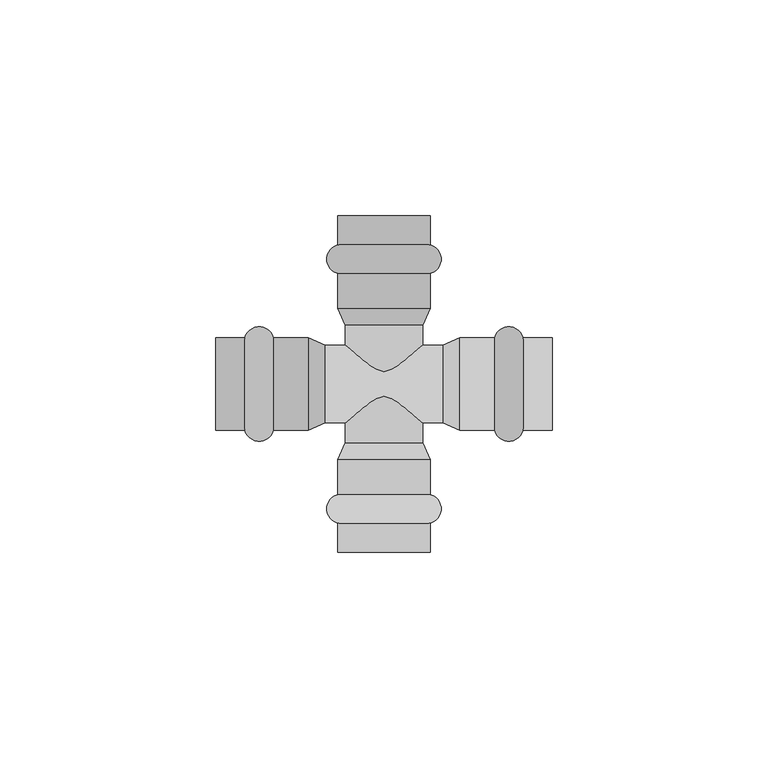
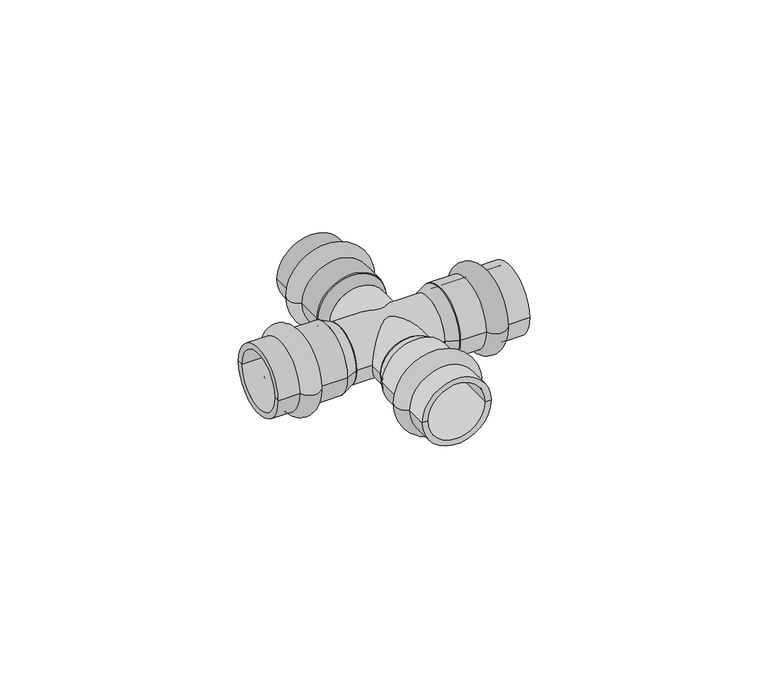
"""IFC4 building model written with IfcOpenShell, lengths in millimetres: pipe fitting geometry, VALTEC_VTi.941.I_Крестовина нержавеющая сталь : VTi.941.I."""

from ifc_helpers import new_model, si_unit, point, frame, origin, origin_2d, place, context, project, spatial, polyline, circle_curve, ellipse_curve, trimmed, segment, composite_curve, outline, extrude, source, transform, mapped, element, save
from ifc_brep_helpers import plane_surface, cylinder_surface, revolved_surface, advanced_brep


def pipe_fitting_bc7cccfe(model_context):
    return source(origin(), model_context, "Body", "SolidModel", [
        advanced_brep(
        [(10.75, -32.2287193, 0.0), (-10.75, -32.2287193, 0.0), (-10.75, -25.6712807, 0.0), (10.75, -25.6712807, 0.0), (10.75, -39.0, 0.0), (-10.75, -39.0, 0.0), (9.0, -39.0, 0.0), (-9.0, -39.0, 0.0), (9.0, -17.55, 0.0), (-9.0, -17.55, 0.0), (10.75, -17.55, 0.0), (-10.75, -17.55, 0.0)],
        [
            (0, 1, circle_curve(frame((0.0, -32.2287193, 0.0), z_axis=(0.0, 1.0, 0.0), x_axis=(-1.0, 0.0, 0.0)), 10.75)),
            (1, 2, circle_curve(frame((-9.85, -28.95, 0.0), z_axis=(0.0, 0.0, -1.0), x_axis=(0.0, 1.0, 0.0)), 3.4)),
            (2, 3, circle_curve(frame((0.0, -25.6712807, 0.0), z_axis=(0.0, -1.0, 0.0), x_axis=(-1.0, 0.0, 0.0)), 10.75)),
            (3, 0, circle_curve(frame((9.85, -28.95, 0.0), z_axis=(0.0, 0.0, -1.0), x_axis=(0.0, 1.0, 0.0)), 3.4)),
            (1, 0, circle_curve(frame((0.0, -32.2287193, 0.0), z_axis=(0.0, 1.0, 0.0), x_axis=(-1.0, 0.0, 0.0)), 10.75)),
            (3, 2, circle_curve(frame((0.0, -25.6712807, 0.0), z_axis=(0.0, -1.0, 0.0), x_axis=(-1.0, 0.0, 0.0)), 10.75)),
            (4, 5, circle_curve(frame((0.0, -39.0, 0.0), z_axis=(0.0, 1.0, 0.0), x_axis=(-1.0, 0.0, 0.0)), 10.75)),
            (5, 1),
            (0, 4),
            (5, 4, circle_curve(frame((0.0, -39.0, 0.0), z_axis=(0.0, 1.0, 0.0), x_axis=(-1.0, 0.0, 0.0)), 10.75)),
            (6, 7, circle_curve(frame((0.0, -39.0, 0.0), z_axis=(0.0, 1.0, 0.0), x_axis=(-1.0, 0.0, 0.0)), 9.0)),
            (7, 5),
            (4, 6),
            (7, 6, circle_curve(frame((0.0, -39.0, 0.0), z_axis=(0.0, 1.0, 0.0), x_axis=(-1.0, 0.0, 0.0)), 9.0)),
            (8, 9, circle_curve(frame((0.0, -17.55, 0.0), z_axis=(0.0, 1.0, 0.0), x_axis=(-1.0, 0.0, 0.0)), 9.0)),
            (9, 7),
            (6, 8),
            (9, 8, circle_curve(frame((0.0, -17.55, 0.0), z_axis=(0.0, 1.0, 0.0), x_axis=(-1.0, 0.0, 0.0)), 9.0)),
            (10, 11, circle_curve(frame((0.0, -17.55, 0.0), z_axis=(0.0, 1.0, 0.0), x_axis=(-1.0, 0.0, 0.0)), 10.75)),
            (11, 9),
            (8, 10),
            (11, 10, circle_curve(frame((0.0, -17.55, 0.0), z_axis=(0.0, 1.0, 0.0), x_axis=(-1.0, 0.0, 0.0)), 10.75)),
            (2, 11),
            (10, 3),
        ],
        [
            revolved_surface(trimmed(ellipse_curve(frame((-9.85, -28.95, 0.0), z_axis=(0.0, 0.0, 1.0), x_axis=(0.0, 1.0, 0.0)), 3.4, 3.4), [point((-10.75, -25.6712807, 0.0))], [point((-10.75, -32.2287193, 0.0))], True, "CARTESIAN"), (0.0, -42.5364426, 0.0), (0.0, -1.0, 0.0)),
            cylinder_surface(frame((0.0, -42.5364426, 0.0), z_axis=(0.0, -1.0, 0.0), x_axis=(-1.0, 0.0, 0.0)), 10.75),
            plane_surface(frame((0.0, -39.0, 0.0), z_axis=(0.0, -1.0, 0.0), x_axis=(-1.0, 0.0, 0.0))),
            revolved_surface(polyline([(-9.0, -39.0, 0.0), (-9.0, -17.55, 0.0)]), (0.0, -42.5364426, 0.0), (0.0, -1.0, 0.0)),
            plane_surface(frame((0.0, -17.55, 0.0), z_axis=(0.0, 1.0, 0.0), x_axis=(-1.0, 0.0, 0.0))),
        ],
        [
            (0, [[1, 2, 3, 4]]),
            (0, [[5, -4, 6, -2]]),
            (1, [[7, 8, -1, 9]]),
            (1, [[10, -9, -5, -8]]),
            (2, [[11, 12, -7, 13]]),
            (2, [[14, -13, -10, -12]]),
            (3, [[15, 16, -11, 17]]),
            (3, [[18, -17, -14, -16]]),
            (4, [[19, 20, -15, 21]]),
            (4, [[22, -21, -18, -20]]),
            (1, [[-3, 23, -19, 24]]),
            (1, [[-6, -24, -22, -23]]),
        ],
    ),
        advanced_brep(
        [(32.2287193, 10.75, 0.0), (32.2287193, -10.75, 0.0), (25.6712807, -10.75, 0.0), (25.6712807, 10.75, 0.0), (39.0, 10.75, 0.0), (39.0, -10.75, 0.0), (39.0, 9.0, 0.0), (39.0, -9.0, 0.0), (17.55, 9.0, 0.0), (17.55, -9.0, 0.0), (17.55, 10.75, 0.0), (17.55, -10.75, 0.0)],
        [
            (0, 1, circle_curve(frame((32.2287193, 0.0, 0.0), z_axis=(-1.0, 0.0, 0.0), x_axis=(0.0, -1.0, 0.0)), 10.75)),
            (1, 2, circle_curve(frame((28.95, -9.85, 0.0), z_axis=(0.0, 0.0, -1.0), x_axis=(-1.0, 0.0, 0.0)), 3.4)),
            (2, 3, circle_curve(frame((25.6712807, 0.0, 0.0), z_axis=(1.0, 0.0, 0.0), x_axis=(0.0, -1.0, 0.0)), 10.75)),
            (3, 0, circle_curve(frame((28.95, 9.85, 0.0), z_axis=(0.0, 0.0, -1.0), x_axis=(-1.0, 0.0, 0.0)), 3.4)),
            (1, 0, circle_curve(frame((32.2287193, 0.0, 0.0), z_axis=(-1.0, 0.0, 0.0), x_axis=(0.0, -1.0, 0.0)), 10.75)),
            (3, 2, circle_curve(frame((25.6712807, 0.0, 0.0), z_axis=(1.0, 0.0, 0.0), x_axis=(0.0, -1.0, 0.0)), 10.75)),
            (4, 5, circle_curve(frame((39.0, 0.0, 0.0), z_axis=(-1.0, 0.0, 0.0), x_axis=(0.0, -1.0, 0.0)), 10.75)),
            (5, 1),
            (0, 4),
            (5, 4, circle_curve(frame((39.0, 0.0, 0.0), z_axis=(-1.0, 0.0, 0.0), x_axis=(0.0, -1.0, 0.0)), 10.75)),
            (6, 7, circle_curve(frame((39.0, 0.0, 0.0), z_axis=(-1.0, 0.0, 0.0), x_axis=(0.0, -1.0, 0.0)), 9.0)),
            (7, 5),
            (4, 6),
            (7, 6, circle_curve(frame((39.0, 0.0, 0.0), z_axis=(-1.0, 0.0, 0.0), x_axis=(0.0, -1.0, 0.0)), 9.0)),
            (8, 9, circle_curve(frame((17.55, 0.0, 0.0), z_axis=(-1.0, 0.0, 0.0), x_axis=(0.0, -1.0, 0.0)), 9.0)),
            (9, 7),
            (6, 8),
            (9, 8, circle_curve(frame((17.55, 0.0, 0.0), z_axis=(-1.0, 0.0, 0.0), x_axis=(0.0, -1.0, 0.0)), 9.0)),
            (10, 11, circle_curve(frame((17.55, 0.0, 0.0), z_axis=(-1.0, 0.0, 0.0), x_axis=(0.0, -1.0, 0.0)), 10.75)),
            (11, 9),
            (8, 10),
            (11, 10, circle_curve(frame((17.55, 0.0, 0.0), z_axis=(-1.0, 0.0, 0.0), x_axis=(0.0, -1.0, 0.0)), 10.75)),
            (2, 11),
            (10, 3),
        ],
        [
            revolved_surface(trimmed(ellipse_curve(frame((28.95, -9.85, 0.0), z_axis=(0.0, 0.0, 1.0), x_axis=(-1.0, 0.0, 0.0)), 3.4, 3.4), [point((25.6712807, -10.75, 0.0))], [point((32.2287193, -10.75, 0.0))], True, "CARTESIAN"), (42.5364426, 0.0, 0.0), (1.0, 0.0, 0.0)),
            cylinder_surface(frame((42.5364426, 0.0, 0.0), z_axis=(1.0, 0.0, 0.0), x_axis=(0.0, -1.0, 0.0)), 10.75),
            plane_surface(frame((39.0, 0.0, 0.0), z_axis=(1.0, 0.0, 0.0), x_axis=(0.0, -1.0, 0.0))),
            revolved_surface(polyline([(39.0, -9.0, 0.0), (17.55, -9.0, 0.0)]), (42.5364426, 0.0, 0.0), (1.0, 0.0, 0.0)),
            plane_surface(frame((17.55, 0.0, 0.0), z_axis=(-1.0, 0.0, 0.0), x_axis=(0.0, -1.0, 0.0))),
        ],
        [
            (0, [[1, 2, 3, 4]]),
            (0, [[5, -4, 6, -2]]),
            (1, [[7, 8, -1, 9]]),
            (1, [[10, -9, -5, -8]]),
            (2, [[11, 12, -7, 13]]),
            (2, [[14, -13, -10, -12]]),
            (3, [[15, 16, -11, 17]]),
            (3, [[18, -17, -14, -16]]),
            (4, [[19, 20, -15, 21]]),
            (4, [[22, -21, -18, -20]]),
            (1, [[-3, 23, -19, 24]]),
            (1, [[-6, -24, -22, -23]]),
        ],
    ),
        advanced_brep(
        [(-32.2287193, -10.75, 0.0), (-32.2287193, 10.75, 0.0), (-25.6712807, 10.75, 0.0), (-25.6712807, -10.75, 0.0), (-39.0, -10.75, 0.0), (-39.0, 10.75, 0.0), (-39.0, -9.0, 0.0), (-39.0, 9.0, 0.0), (-17.55, -9.0, 0.0), (-17.55, 9.0, 0.0), (-17.55, -10.75, 0.0), (-17.55, 10.75, 0.0)],
        [
            (0, 1, circle_curve(frame((-32.2287193, 0.0, 0.0), z_axis=(1.0, 0.0, 0.0), x_axis=(0.0, 1.0, 0.0)), 10.75)),
            (1, 2, circle_curve(frame((-28.95, 9.85, 0.0), z_axis=(0.0, 0.0, -1.0), x_axis=(1.0, 0.0, 0.0)), 3.4)),
            (2, 3, circle_curve(frame((-25.6712807, 0.0, 0.0), z_axis=(-1.0, 0.0, 0.0), x_axis=(0.0, 1.0, 0.0)), 10.75)),
            (3, 0, circle_curve(frame((-28.95, -9.85, 0.0), z_axis=(0.0, 0.0, -1.0), x_axis=(1.0, 0.0, 0.0)), 3.4)),
            (1, 0, circle_curve(frame((-32.2287193, 0.0, 0.0), z_axis=(1.0, 0.0, 0.0), x_axis=(0.0, 1.0, 0.0)), 10.75)),
            (3, 2, circle_curve(frame((-25.6712807, 0.0, 0.0), z_axis=(-1.0, 0.0, 0.0), x_axis=(0.0, 1.0, 0.0)), 10.75)),
            (4, 5, circle_curve(frame((-39.0, 0.0, 0.0), z_axis=(1.0, 0.0, 0.0), x_axis=(0.0, 1.0, 0.0)), 10.75)),
            (5, 1),
            (0, 4),
            (5, 4, circle_curve(frame((-39.0, 0.0, 0.0), z_axis=(1.0, 0.0, 0.0), x_axis=(0.0, 1.0, 0.0)), 10.75)),
            (6, 7, circle_curve(frame((-39.0, 0.0, 0.0), z_axis=(1.0, 0.0, 0.0), x_axis=(0.0, 1.0, 0.0)), 9.0)),
            (7, 5),
            (4, 6),
            (7, 6, circle_curve(frame((-39.0, 0.0, 0.0), z_axis=(1.0, 0.0, 0.0), x_axis=(0.0, 1.0, 0.0)), 9.0)),
            (8, 9, circle_curve(frame((-17.55, 0.0, 0.0), z_axis=(1.0, 0.0, 0.0), x_axis=(0.0, 1.0, 0.0)), 9.0)),
            (9, 7),
            (6, 8),
            (9, 8, circle_curve(frame((-17.55, 0.0, 0.0), z_axis=(1.0, 0.0, 0.0), x_axis=(0.0, 1.0, 0.0)), 9.0)),
            (10, 11, circle_curve(frame((-17.55, 0.0, 0.0), z_axis=(1.0, 0.0, 0.0), x_axis=(0.0, 1.0, 0.0)), 10.75)),
            (11, 9),
            (8, 10),
            (11, 10, circle_curve(frame((-17.55, 0.0, 0.0), z_axis=(1.0, 0.0, 0.0), x_axis=(0.0, 1.0, 0.0)), 10.75)),
            (2, 11),
            (10, 3),
        ],
        [
            revolved_surface(trimmed(ellipse_curve(frame((-28.95, 9.85, 0.0), z_axis=(0.0, 0.0, 1.0), x_axis=(1.0, 0.0, 0.0)), 3.4, 3.4), [point((-25.6712807, 10.75, 0.0))], [point((-32.2287193, 10.75, 0.0))], True, "CARTESIAN"), (-42.5364426, 0.0, 0.0), (-1.0, 0.0, 0.0)),
            cylinder_surface(frame((-42.5364426, 0.0, 0.0), z_axis=(-1.0, 0.0, 0.0), x_axis=(0.0, 1.0, 0.0)), 10.75),
            plane_surface(frame((-39.0, 0.0, 0.0), z_axis=(-1.0, 0.0, 0.0), x_axis=(0.0, 1.0, 0.0))),
            revolved_surface(polyline([(-39.0, 9.0, 0.0), (-17.55, 9.0, 0.0)]), (-42.5364426, 0.0, 0.0), (-1.0, 0.0, 0.0)),
            plane_surface(frame((-17.55, 0.0, 0.0), z_axis=(1.0, 0.0, 0.0), x_axis=(0.0, 1.0, 0.0))),
        ],
        [
            (0, [[1, 2, 3, 4]]),
            (0, [[5, -4, 6, -2]]),
            (1, [[7, 8, -1, 9]]),
            (1, [[10, -9, -5, -8]]),
            (2, [[11, 12, -7, 13]]),
            (2, [[14, -13, -10, -12]]),
            (3, [[15, 16, -11, 17]]),
            (3, [[18, -17, -14, -16]]),
            (4, [[19, 20, -15, 21]]),
            (4, [[22, -21, -18, -20]]),
            (1, [[-3, 23, -19, 24]]),
            (1, [[-6, -24, -22, -23]]),
        ],
    ),
        advanced_brep(
        [(-10.75, 32.2287193, 0.0), (10.75, 32.2287193, 0.0), (10.75, 25.6712807, 0.0), (-10.75, 25.6712807, 0.0), (-10.75, 39.0, 0.0), (10.75, 39.0, 0.0), (-9.0, 39.0, 0.0), (9.0, 39.0, 0.0), (-9.0, 17.55, 0.0), (9.0, 17.55, 0.0), (-10.75, 17.55, 0.0), (10.75, 17.55, 0.0)],
        [
            (0, 1, circle_curve(frame((0.0, 32.2287193, 0.0), z_axis=(0.0, -1.0, 0.0), x_axis=(1.0, 0.0, 0.0)), 10.75)),
            (1, 2, circle_curve(frame((9.85, 28.95, 0.0), z_axis=(0.0, 0.0, -1.0), x_axis=(0.0, -1.0, 0.0)), 3.4)),
            (2, 3, circle_curve(frame((0.0, 25.6712807, 0.0), z_axis=(0.0, 1.0, 0.0), x_axis=(1.0, 0.0, 0.0)), 10.75)),
            (3, 0, circle_curve(frame((-9.85, 28.95, 0.0), z_axis=(0.0, 0.0, -1.0), x_axis=(0.0, -1.0, 0.0)), 3.4)),
            (1, 0, circle_curve(frame((0.0, 32.2287193, 0.0), z_axis=(0.0, -1.0, 0.0), x_axis=(1.0, 0.0, 0.0)), 10.75)),
            (3, 2, circle_curve(frame((0.0, 25.6712807, 0.0), z_axis=(0.0, 1.0, 0.0), x_axis=(1.0, 0.0, 0.0)), 10.75)),
            (4, 5, circle_curve(frame((0.0, 39.0, 0.0), z_axis=(0.0, -1.0, 0.0), x_axis=(1.0, 0.0, 0.0)), 10.75)),
            (5, 1),
            (0, 4),
            (5, 4, circle_curve(frame((0.0, 39.0, 0.0), z_axis=(0.0, -1.0, 0.0), x_axis=(1.0, 0.0, 0.0)), 10.75)),
            (6, 7, circle_curve(frame((0.0, 39.0, 0.0), z_axis=(0.0, -1.0, 0.0), x_axis=(1.0, 0.0, 0.0)), 9.0)),
            (7, 5),
            (4, 6),
            (7, 6, circle_curve(frame((0.0, 39.0, 0.0), z_axis=(0.0, -1.0, 0.0), x_axis=(1.0, 0.0, 0.0)), 9.0)),
            (8, 9, circle_curve(frame((0.0, 17.55, 0.0), z_axis=(0.0, -1.0, 0.0), x_axis=(1.0, 0.0, 0.0)), 9.0)),
            (9, 7),
            (6, 8),
            (9, 8, circle_curve(frame((0.0, 17.55, 0.0), z_axis=(0.0, -1.0, 0.0), x_axis=(1.0, 0.0, 0.0)), 9.0)),
            (10, 11, circle_curve(frame((0.0, 17.55, 0.0), z_axis=(0.0, -1.0, 0.0), x_axis=(1.0, 0.0, 0.0)), 10.75)),
            (11, 9),
            (8, 10),
            (11, 10, circle_curve(frame((0.0, 17.55, 0.0), z_axis=(0.0, -1.0, 0.0), x_axis=(1.0, 0.0, 0.0)), 10.75)),
            (2, 11),
            (10, 3),
        ],
        [
            revolved_surface(trimmed(ellipse_curve(frame((9.85, 28.95, 0.0), z_axis=(0.0, 0.0, 1.0), x_axis=(0.0, -1.0, 0.0)), 3.4, 3.4), [point((10.75, 25.6712807, 0.0))], [point((10.75, 32.2287193, 0.0))], True, "CARTESIAN"), (0.0, 42.5364426, 0.0), (0.0, 1.0, 0.0)),
            cylinder_surface(frame((0.0, 42.5364426, 0.0), z_axis=(0.0, 1.0, 0.0), x_axis=(1.0, 0.0, 0.0)), 10.75),
            plane_surface(frame((0.0, 39.0, 0.0), z_axis=(0.0, 1.0, 0.0), x_axis=(1.0, 0.0, 0.0))),
            revolved_surface(polyline([(9.0, 39.0, 0.0), (9.0, 17.55, 0.0)]), (0.0, 42.5364426, 0.0), (0.0, 1.0, 0.0)),
            plane_surface(frame((0.0, 17.55, 0.0), z_axis=(0.0, -1.0, 0.0), x_axis=(1.0, 0.0, 0.0))),
        ],
        [
            (0, [[1, 2, 3, 4]]),
            (0, [[5, -4, 6, -2]]),
            (1, [[7, 8, -1, 9]]),
            (1, [[10, -9, -5, -8]]),
            (2, [[11, 12, -7, 13]]),
            (2, [[14, -13, -10, -12]]),
            (3, [[15, 16, -11, 17]]),
            (3, [[18, -17, -14, -16]]),
            (4, [[19, 20, -15, 21]]),
            (4, [[22, -21, -18, -20]]),
            (1, [[-3, 23, -19, 24]]),
            (1, [[-6, -24, -22, -23]]),
        ],
    ),
        extrude(outline(composite_curve([segment(trimmed(circle_curve(origin_2d(), 9.0), [point((-9.0, 0.0))], [point((9.0, 0.0))], False, "CARTESIAN"), True, "CONTINUOUS"), segment(trimmed(circle_curve(origin_2d(), 9.0), [point((9.0, 0.0))], [point((-9.0, 0.0))], False, "CARTESIAN"), True, "CONTINUOUS")], self_intersect=False)), frame((-13.65, 0.0, 0.0), z_axis=(1.0, 0.0, 0.0), x_axis=(0.0, 1.0, 0.0)), (0.0, 0.0, 1.0), 27.3),
        extrude(outline(composite_curve([segment(trimmed(circle_curve(origin_2d(), 9.0), [point((0.0, -9.0))], [point((0.0, 9.0))], False, "CARTESIAN"), True, "CONTINUOUS"), segment(trimmed(circle_curve(origin_2d(), 9.0), [point((0.0, 9.0))], [point((0.0, -9.0))], False, "CARTESIAN"), True, "CONTINUOUS")], self_intersect=False)), frame((0.0, -13.65, 0.0), z_axis=(0.0, 1.0, 0.0), x_axis=(0.0, 0.0, 1.0)), (0.0, 0.0, 1.0), 27.3),
        advanced_brep(
        [(-17.55, -10.75, 0.0), (-17.55, 10.75, 0.0), (-13.65, -9.0, 0.0), (-13.65, 9.0, 0.0)],
        [
            (0, 1, circle_curve(frame((-17.55, 0.0, 0.0), z_axis=(-1.0, 0.0, 0.0), x_axis=(0.0, -1.0, 0.0)), 10.75)),
            (1, 0, circle_curve(frame((-17.55, 0.0, 0.0), z_axis=(-1.0, 0.0, 0.0), x_axis=(0.0, 1.0, 0.0)), 10.75)),
            (2, 3, circle_curve(frame((-13.65, 0.0, 0.0), z_axis=(1.0, 0.0, 0.0), x_axis=(0.0, 1.0, 0.0)), 9.0)),
            (3, 2, circle_curve(frame((-13.65, 0.0, 0.0), z_axis=(1.0, 0.0, 0.0), x_axis=(0.0, -1.0, 0.0)), 9.0)),
            (2, 0),
            (1, 3),
        ],
        [
            plane_surface(frame((-17.55, 0.0, 0.0), z_axis=(-1.0, 0.0, 0.0), x_axis=(0.0, 0.0, 1.0))),
            plane_surface(frame((-13.65, 0.0, 0.0), z_axis=(1.0, 0.0, 0.0), x_axis=(0.0, 0.0, 1.0))),
            revolved_surface(polyline([(-13.650000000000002, -9.000000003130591, 0.0), (-17.55, -10.75, 0.0)]), (6.4071429, 0.0, 0.0), (-1.0, 0.0, 0.0)),
            revolved_surface(polyline([(-13.650000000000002, 9.000000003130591, 0.0), (-17.55, 10.75, 0.0)]), (6.4071429, 0.0, 0.0), (-1.0, 0.0, 0.0)),
        ],
        [
            (0, [[1, 2]]),
            (1, [[3, 4]]),
            (2, [[-3, 5, -2, 6]]),
            (3, [[-4, -6, -1, -5]]),
        ],
    ),
        advanced_brep(
        [(17.55, -10.75, 0.0), (17.55, 10.75, 0.0), (13.65, -9.0, 0.0), (13.65, 9.0, 0.0)],
        [
            (0, 1, circle_curve(frame((17.55, 0.0, 0.0), z_axis=(1.0, 0.0, 0.0), x_axis=(0.0, -1.0, 0.0)), 10.75)),
            (1, 0, circle_curve(frame((17.55, 0.0, 0.0), z_axis=(1.0, 0.0, 0.0), x_axis=(0.0, 1.0, 0.0)), 10.75)),
            (2, 3, circle_curve(frame((13.65, 0.0, 0.0), z_axis=(-1.0, 0.0, 0.0), x_axis=(0.0, 1.0, 0.0)), 9.0)),
            (3, 2, circle_curve(frame((13.65, 0.0, 0.0), z_axis=(-1.0, 0.0, 0.0), x_axis=(0.0, -1.0, 0.0)), 9.0)),
            (3, 1),
            (0, 2),
        ],
        [
            plane_surface(frame((17.55, 0.0, 0.0), z_axis=(1.0, 0.0, 0.0), x_axis=(0.0, 0.0, -1.0))),
            plane_surface(frame((13.65, 0.0, 0.0), z_axis=(-1.0, 0.0, 0.0), x_axis=(0.0, 0.0, -1.0))),
            revolved_surface(polyline([(13.650000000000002, 9.000000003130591, 0.0), (17.55, 10.75, 0.0)]), (-6.4071429, 0.0, 0.0), (1.0, 0.0, 0.0)),
            revolved_surface(polyline([(13.650000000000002, -9.000000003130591, 0.0), (17.55, -10.75, 0.0)]), (-6.4071429, 0.0, 0.0), (1.0, 0.0, 0.0)),
        ],
        [
            (0, [[1, 2]]),
            (1, [[3, 4]]),
            (2, [[-4, 5, -1, 6]]),
            (3, [[-3, -6, -2, -5]]),
        ],
    ),
        advanced_brep(
        [(-10.75, -17.55, 0.0), (10.75, -17.55, 0.0), (-9.0, -13.65, 0.0), (9.0, -13.65, 0.0)],
        [
            (0, 1, circle_curve(frame((0.0, -17.55, 0.0), z_axis=(0.0, -1.0, 0.0), x_axis=(-1.0, 0.0, 0.0)), 10.75)),
            (1, 0, circle_curve(frame((0.0, -17.55, 0.0), z_axis=(0.0, -1.0, 0.0), x_axis=(1.0, 0.0, 0.0)), 10.75)),
            (2, 3, circle_curve(frame((0.0, -13.65, 0.0), z_axis=(0.0, 1.0, 0.0), x_axis=(1.0, 0.0, 0.0)), 9.0)),
            (3, 2, circle_curve(frame((0.0, -13.65, 0.0), z_axis=(0.0, 1.0, 0.0), x_axis=(-1.0, 0.0, 0.0)), 9.0)),
            (3, 1),
            (0, 2),
        ],
        [
            plane_surface(frame((0.0, -17.55, 0.0), z_axis=(0.0, -1.0, 0.0), x_axis=(0.0, 0.0, 1.0))),
            plane_surface(frame((0.0, -13.65, 0.0), z_axis=(0.0, 1.0, 0.0), x_axis=(0.0, 0.0, 1.0))),
            revolved_surface(polyline([(9.000000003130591, -13.650000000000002, 0.0), (10.75, -17.55, 0.0)]), (0.0, 6.4071429, 0.0), (0.0, -1.0, 0.0)),
            revolved_surface(polyline([(-9.000000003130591, -13.650000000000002, 0.0), (-10.75, -17.55, 0.0)]), (0.0, 6.4071429, 0.0), (0.0, -1.0, 0.0)),
        ],
        [
            (0, [[1, 2]]),
            (1, [[3, 4]]),
            (2, [[-4, 5, -1, 6]]),
            (3, [[-3, -6, -2, -5]]),
        ],
    ),
        advanced_brep(
        [(-10.75, 17.55, 0.0), (10.75, 17.55, 0.0), (-9.0, 13.65, 0.0), (9.0, 13.65, 0.0)],
        [
            (0, 1, circle_curve(frame((0.0, 17.55, 0.0), z_axis=(0.0, 1.0, 0.0), x_axis=(-1.0, 0.0, 0.0)), 10.75)),
            (1, 0, circle_curve(frame((0.0, 17.55, 0.0), z_axis=(0.0, 1.0, 0.0), x_axis=(1.0, 0.0, 0.0)), 10.75)),
            (2, 3, circle_curve(frame((0.0, 13.65, 0.0), z_axis=(0.0, -1.0, 0.0), x_axis=(1.0, 0.0, 0.0)), 9.0)),
            (3, 2, circle_curve(frame((0.0, 13.65, 0.0), z_axis=(0.0, -1.0, 0.0), x_axis=(-1.0, 0.0, 0.0)), 9.0)),
            (2, 0),
            (1, 3),
        ],
        [
            plane_surface(frame((0.0, 17.55, 0.0), z_axis=(0.0, 1.0, 0.0), x_axis=(0.0, 0.0, -1.0))),
            plane_surface(frame((0.0, 13.65, 0.0), z_axis=(0.0, -1.0, 0.0), x_axis=(0.0, 0.0, -1.0))),
            revolved_surface(polyline([(-9.000000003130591, 13.650000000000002, 0.0), (-10.75, 17.55, 0.0)]), (0.0, -6.4071429, 0.0), (0.0, 1.0, 0.0)),
            revolved_surface(polyline([(9.000000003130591, 13.650000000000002, 0.0), (10.75, 17.55, 0.0)]), (0.0, -6.4071429, 0.0), (0.0, 1.0, 0.0)),
        ],
        [
            (0, [[1, 2]]),
            (1, [[3, 4]]),
            (2, [[-3, 5, -2, 6]]),
            (3, [[-4, -6, -1, -5]]),
        ],
    ),
    ])


if __name__ == "__main__":
    model = new_model("IFC4")
    model_context = context("Model", 3, world=origin())
    ifc_project = project(units=[si_unit("LENGTHUNIT", "METRE", prefix="MILLI")], contexts=[model_context])
    site = spatial("IfcSite", under=ifc_project)
    building = spatial("IfcBuilding", under=site)
    placement = place(None, origin())
    pipe_fitting_shape = pipe_fitting_bc7cccfe(model_context)
    element("IfcPipeFitting", 1, ObjectType="VALTEC_VTi.941.I_Крестовина нержавеющая сталь : VTi.941.I", at=placement, inside=building, context=model_context, shape_type="MappedRepresentation", body=[
        mapped(pipe_fitting_shape, transform((0.0, 0.0, 0.0), x_axis=(1.0, 0.0, 0.0), y_axis=(0.0, 1.0, 0.0), z_axis=(0.0, 0.0, 1.0))),
    ])
    save(model, "model.ifc")
